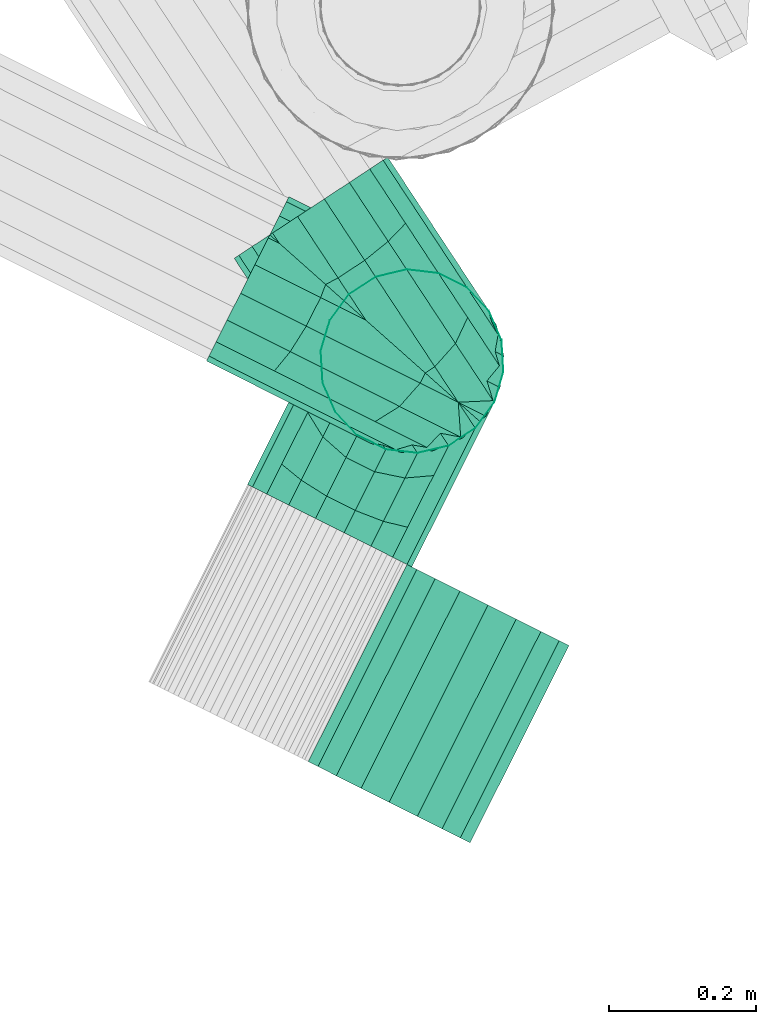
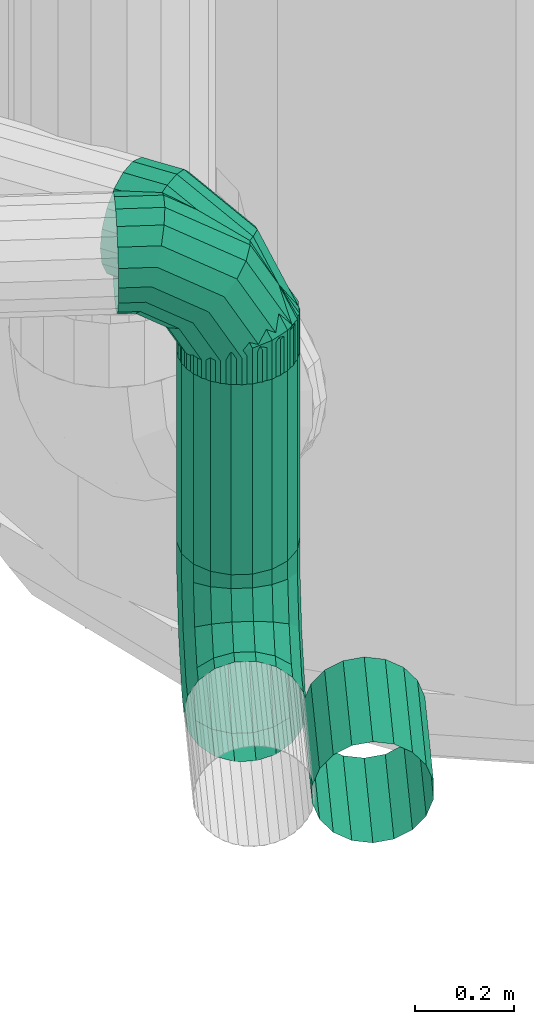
# One storey, part 94 of 206: 3 flow fittings, 2 flow segments.
"""IFC2X3 building model written with IfcOpenShell, lengths in metres."""

from ifc_helpers import new_model, si_unit, derived_unit, direction, frame, origin, place, context, subcontext, project, spatial, face_set, surface_model, source, transform, mapped, material, type_object, type_shapes, element, save


model = new_model("IFC2X3")

# Units and contexts
model_context = context("Model", 3, precision=5.2338327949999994e-05, world=origin(), true_north=direction((0.0, 1.0)))
body_context = subcontext(model_context, "Body", "Model", "MODEL_VIEW")
ifc_project = project(units=[si_unit("LENGTHUNIT", "METRE"), si_unit("AREAUNIT", "SQUARE_METRE"), si_unit("VOLUMEUNIT", "CUBIC_METRE"), si_unit("MASSUNIT", "GRAM", prefix="KILO"), si_unit("PLANEANGLEUNIT", "RADIAN"), derived_unit("THERMALTRANSMITTANCEUNIT", [(si_unit("MASSUNIT", "GRAM", prefix="KILO"), 1), (si_unit("THERMODYNAMICTEMPERATUREUNIT", "KELVIN"), -1), (si_unit("TIMEUNIT", "SECOND"), -3)])], contexts=[model_context])

# Site, building, storey
site_placement = place(None, frame((0.0, 0.0, 0.0), z_axis=(0.0, 0.0, 1.0), x_axis=(0.8939966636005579, -0.4480736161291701, 0.0)))
site = spatial("IfcSite", under=ifc_project, at=site_placement, Name="Default", CompositionType="ELEMENT")
building_placement = place(site_placement, origin())
building = spatial("IfcBuilding", under=site, at=building_placement, CompositionType="ELEMENT")
storey_placement = place(building_placement, origin())
storey = spatial("IfcBuildingStorey", under=building, at=storey_placement, Name="Erdgeschoss", CompositionType="ELEMENT", Elevation=0.0)

# Flow fitting
ifc_material = material(Name="IfcSurfaceStyle #251447")
distribution_element_type_1 = type_object("IfcDistributionElementType", Name="Segmentbogen 4 teilig 283546:Segmentbogen 4 teilig 283546", material=ifc_material)
shared_shape_1 = source(origin(), body_context, "Body", "SurfaceModel", [
    surface_model("IfcFaceBasedSurfaceModel", [(34.15757135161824, 8.91960368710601, 1.949999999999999), (34.11481883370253, 8.912065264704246, 1.949999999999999), (34.11481883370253, 8.912065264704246, 2.005531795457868), (34.15757135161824, 8.91960368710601, 2.01698729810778), (34.07722290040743, 8.890359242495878, 1.949999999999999), (34.07722290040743, 8.890359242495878, 1.9954579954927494), (34.049318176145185, 8.857103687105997, 1.949999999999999), (34.049318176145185, 8.857103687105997, 1.9879809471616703), (34.03447038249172, 8.816309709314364, 1.949999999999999), (34.03447038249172, 8.816309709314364, 1.9840024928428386), (34.034470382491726, 8.772897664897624, 1.949999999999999), (34.034470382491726, 8.772897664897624, 1.9840024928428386), (34.0493181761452, 8.732103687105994, 1.949999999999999), (34.0493181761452, 8.732103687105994, 1.9879809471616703), (34.077222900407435, 8.698848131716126, 1.949999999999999), (34.077222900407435, 8.698848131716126, 1.9954579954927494), (34.11481883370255, 8.677142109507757, 1.949999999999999), (34.11481883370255, 8.677142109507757, 2.005531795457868), (34.15757135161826, 8.66960368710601, 1.949999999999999), (34.157571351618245, 8.66960368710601, 2.01698729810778), (34.20032386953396, 8.677142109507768, 1.949999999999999), (34.20032386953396, 8.677142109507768, 2.0284428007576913), (34.237919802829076, 8.698848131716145, 1.949999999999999), (34.237919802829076, 8.698848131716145, 2.0385166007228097), (34.265824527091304, 8.73210368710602, 1.949999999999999), (34.265824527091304, 8.73210368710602, 2.045993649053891), (34.28067232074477, 8.772897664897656, 1.949999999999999), (34.28067232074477, 8.772897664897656, 2.0499721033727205), (34.28067232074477, 8.816309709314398, 1.949999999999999), (34.28067232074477, 8.816309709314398, 2.0499721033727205), (34.2658245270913, 8.85710368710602, 1.949999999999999), (34.2658245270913, 8.85710368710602, 2.045993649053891), (34.237919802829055, 8.890359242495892, 1.949999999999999), (34.237919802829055, 8.890359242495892, 2.0385166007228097), (34.200323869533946, 8.912065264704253, 1.949999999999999), (34.200323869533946, 8.912065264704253, 2.0284428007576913), (34.05928703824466, 8.91206526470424, 2.1017156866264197), (34.09058405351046, 8.919603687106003, 2.133012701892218), (34.031764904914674, 8.890359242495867, 2.074193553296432), (34.011337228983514, 8.857103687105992, 2.053765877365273), (34.00046788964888, 8.816309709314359, 2.0428965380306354), (34.00046788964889, 8.772897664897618, 2.042896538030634), (34.01133722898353, 8.732103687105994, 2.053765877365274), (34.03176490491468, 8.698848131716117, 2.0741935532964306), (34.05928703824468, 8.677142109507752, 2.1017156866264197), (34.090584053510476, 8.669603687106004, 2.133012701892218), (34.121881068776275, 8.677142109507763, 2.1643097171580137), (34.149403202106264, 8.698848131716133, 2.1918318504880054), (34.169830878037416, 8.732103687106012, 2.212259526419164), (34.18070021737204, 8.77289766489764, 2.2231288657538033), (34.18070021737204, 8.81630970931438, 2.2231288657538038), (34.16983087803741, 8.85710368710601, 2.212259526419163), (34.14940320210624, 8.89035924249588, 2.1918318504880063), (34.121881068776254, 8.912065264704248, 2.1643097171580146), (33.96310314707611, 8.912065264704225, 2.1572474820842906), (33.97455864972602, 8.919603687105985, 2.1999999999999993), (33.95302934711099, 8.890359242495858, 2.1196515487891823), (33.94555229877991, 8.85710368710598, 2.091746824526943), (33.94157384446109, 8.81630970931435, 2.0768990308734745), (33.94157384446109, 8.772897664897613, 2.0768990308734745), (33.94555229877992, 8.732103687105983, 2.091746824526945), (33.953029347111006, 8.698848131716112, 2.119651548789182), (33.963103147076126, 8.67714210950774, 2.1572474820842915), (33.974558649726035, 8.669603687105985, 2.1999999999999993), (33.98601415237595, 8.677142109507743, 2.242752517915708), (33.996087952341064, 8.698848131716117, 2.280348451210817), (34.00356500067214, 8.732103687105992, 2.3082531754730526), (34.00754345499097, 8.772897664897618, 2.3231009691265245), (34.00754345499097, 8.816309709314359, 2.3231009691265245), (34.00356500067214, 8.85710368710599, 2.308253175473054), (33.99608795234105, 8.890359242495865, 2.280348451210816), (33.98601415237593, 8.912065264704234, 2.2427525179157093), (33.907571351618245, 8.912065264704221, 2.1572474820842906), (33.90757135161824, 8.919603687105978, 2.1999999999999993), (33.907571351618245, 8.890359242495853, 2.1196515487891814), (33.907571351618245, 8.857103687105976, 2.0917468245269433), (33.90757135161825, 8.816309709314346, 2.076899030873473), (33.90757135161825, 8.772897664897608, 2.0768990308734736), (33.90757135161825, 8.732103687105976, 2.0917468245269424), (33.90757135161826, 8.698848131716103, 2.1196515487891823), (33.90757135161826, 8.67714210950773, 2.157247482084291), (33.90757135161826, 8.66960368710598, 2.1999999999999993), (33.90757135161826, 8.677142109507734, 2.2427525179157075), (33.90757135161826, 8.698848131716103, 2.2803484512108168), (33.90757135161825, 8.732103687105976, 2.3082531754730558), (33.90757135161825, 8.772897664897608, 2.3231009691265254), (33.90757135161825, 8.816309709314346, 2.3231009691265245), (33.907571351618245, 8.857103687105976, 2.3082531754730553), (33.907571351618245, 8.890359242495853, 2.2803484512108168), (33.907571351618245, 8.912065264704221, 2.2427525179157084)], [face_set([[[0, 1, 2, 3]], [[1, 4, 5, 2]], [[4, 6, 7, 5]], [[6, 8, 9, 7]], [[8, 10, 11, 9]], [[10, 12, 13, 11]], [[12, 14, 15, 13]], [[14, 16, 17, 15]], [[16, 18, 19, 17]], [[18, 20, 21, 19]], [[20, 22, 23, 21]], [[22, 24, 25, 23]], [[24, 26, 27, 25]], [[26, 28, 29, 27]], [[28, 30, 31, 29]], [[30, 32, 33, 31]], [[32, 34, 35, 33]], [[34, 0, 3, 35]], [[3, 2, 36, 37]], [[2, 5, 38, 36]], [[5, 7, 39, 38]], [[7, 9, 40, 39]], [[9, 11, 41, 40]], [[11, 13, 42, 41]], [[13, 15, 43, 42]], [[15, 17, 44, 43]], [[17, 19, 45, 44]], [[19, 21, 46, 45]], [[21, 23, 47, 46]], [[23, 25, 48, 47]], [[25, 27, 49, 48]], [[27, 29, 50, 49]], [[29, 31, 51, 50]], [[31, 33, 52, 51]], [[33, 35, 53, 52]], [[35, 3, 37, 53]], [[37, 36, 54, 55]], [[36, 38, 56, 54]], [[38, 39, 57, 56]], [[39, 40, 58, 57]], [[40, 41, 59, 58]], [[41, 42, 60, 59]], [[42, 43, 61, 60]], [[43, 44, 62, 61]], [[44, 45, 63, 62]], [[45, 46, 64, 63]], [[46, 47, 65, 64]], [[47, 48, 66, 65]], [[48, 49, 67, 66]], [[49, 50, 68, 67]], [[50, 51, 69, 68]], [[51, 52, 70, 69]], [[52, 53, 71, 70]], [[53, 37, 55, 71]], [[55, 54, 72, 73]], [[54, 56, 74, 72]], [[56, 57, 75, 74]], [[57, 58, 76, 75]], [[58, 59, 77, 76]], [[59, 60, 78, 77]], [[60, 61, 79, 78]], [[61, 62, 80, 79]], [[62, 63, 81, 80]], [[63, 64, 82, 81]], [[64, 65, 83, 82]], [[65, 66, 84, 83]], [[66, 67, 85, 84]], [[67, 68, 86, 85]], [[68, 69, 87, 86]], [[69, 70, 88, 87]], [[70, 71, 89, 88]], [[71, 55, 73, 89]]])]),
])
type_shapes(distribution_element_type_1, [shared_shape_1])
flow_fitting_1_placement = place(storey_placement, origin())
element("IfcFlowFitting", 1, at=flow_fitting_1_placement, inside=storey, type_object=distribution_element_type_1, material=ifc_material, Name="Segmentbogen 4 teilig", ObjectType="Segmentbogen 4 teilig", context=body_context, shape_type="MappedRepresentation", body=[
    mapped(shared_shape_1, transform((0.0, 0.0, 0.0), scale=1.0)),
])

# Flow segments
distribution_element_type_2 = type_object("IfcDistributionElementType", Name="Wickelfalzrohr 283569:Wickelfalzrohr 283569", material=ifc_material)
shared_shape_2 = source(origin(), body_context, "Body", "SurfaceModel", [
    surface_model("IfcFaceBasedSurfaceModel", [(34.28257135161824, 8.794603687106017, 1.4799999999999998), (34.27503292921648, 8.837356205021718, 1.4799999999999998), (34.27503292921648, 8.837356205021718, 1.9500000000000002), (34.28257135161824, 8.79460368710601, 1.9500000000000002), (34.25332690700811, 8.874952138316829, 1.4799999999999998), (34.25332690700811, 8.874952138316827, 1.9500000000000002), (34.220071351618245, 8.902856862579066, 1.4799999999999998), (34.22007135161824, 8.902856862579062, 1.9500000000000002), (34.17927737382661, 8.917704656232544, 1.4799999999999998), (34.1792773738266, 8.91770465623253, 1.9500000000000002), (34.135865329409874, 8.917704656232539, 1.4799999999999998), (34.13586532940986, 8.917704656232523, 1.9500000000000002), (34.09507135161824, 8.902856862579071, 1.4799999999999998), (34.09507135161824, 8.902856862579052, 1.9500000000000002), (34.06181579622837, 8.874952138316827, 1.4799999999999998), (34.061815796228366, 8.874952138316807, 1.9500000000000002), (34.040109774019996, 8.83735620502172, 1.4799999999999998), (34.040109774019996, 8.8373562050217, 1.9500000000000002), (34.03257135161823, 8.794603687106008, 1.4799999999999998), (34.03257135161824, 8.79460368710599, 1.9500000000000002), (34.040109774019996, 8.751851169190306, 1.4799999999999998), (34.04010977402, 8.751851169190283, 1.9500000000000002), (34.06181579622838, 8.714255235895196, 1.4799999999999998), (34.06181579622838, 8.714255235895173, 1.9500000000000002), (34.09507135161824, 8.686350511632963, 1.4799999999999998), (34.09507135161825, 8.686350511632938, 1.9500000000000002), (34.135865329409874, 8.671502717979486, 1.4799999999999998), (34.13586532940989, 8.67150271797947, 1.9500000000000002), (34.17927737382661, 8.671502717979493, 1.4799999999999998), (34.17927737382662, 8.671502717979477, 1.9500000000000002), (34.22007135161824, 8.686350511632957, 1.4799999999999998), (34.22007135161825, 8.686350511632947, 1.9500000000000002), (34.253326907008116, 8.714255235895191, 1.4799999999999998), (34.253326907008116, 8.714255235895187, 1.9500000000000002), (34.27503292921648, 8.751851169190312, 1.4799999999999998), (34.27503292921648, 8.751851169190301, 1.9500000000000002)], [face_set([[[0, 1, 2, 3]], [[1, 4, 5, 2]], [[4, 6, 7, 5]], [[6, 8, 9, 7]], [[8, 10, 11, 9]], [[10, 12, 13, 11]], [[12, 14, 15, 13]], [[14, 16, 17, 15]], [[16, 18, 19, 17]], [[18, 20, 21, 19]], [[20, 22, 23, 21]], [[22, 24, 25, 23]], [[24, 26, 27, 25]], [[26, 28, 29, 27]], [[28, 30, 31, 29]], [[30, 32, 33, 31]], [[32, 34, 35, 33]], [[34, 0, 3, 35]]])]),
])
type_shapes(distribution_element_type_2, [shared_shape_2])
flow_segment_1_placement = place(storey_placement, origin())
element("IfcFlowSegment", 2, at=flow_segment_1_placement, inside=storey, type_object=distribution_element_type_2, material=ifc_material, Name="Wickelfalzrohr", ObjectType="Wickelfalzrohr", context=body_context, shape_type="MappedRepresentation", body=[
    mapped(shared_shape_2, transform((0.0, 0.0, 0.0), scale=1.0)),
])
distribution_element_type_3 = type_object("IfcDistributionElementType", Name="Wickelfalzrohr 293699:Wickelfalzrohr 293699", material=ifc_material)
shared_shape_3 = source(origin(), body_context, "Body", "SurfaceModel", [
    surface_model("IfcFaceBasedSurfaceModel", [(34.398377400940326, 8.244603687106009, 1.3549999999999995), (34.44112991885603, 8.244603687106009, 1.3474615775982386), (34.44112991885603, 8.544603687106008, 1.3474615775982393), (34.398377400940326, 8.54460368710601, 1.355), (34.47872585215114, 8.244603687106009, 1.3257555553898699), (34.47872585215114, 8.54460368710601, 1.3257555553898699), (34.50663057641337, 8.244603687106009, 1.2925000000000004), (34.50663057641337, 8.54460368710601, 1.2925000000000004), (34.521478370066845, 8.244603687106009, 1.2517060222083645), (34.521478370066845, 8.54460368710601, 1.2517060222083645), (34.52147837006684, 8.244603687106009, 1.2082939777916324), (34.52147837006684, 8.54460368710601, 1.2082939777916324), (34.50663057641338, 8.244603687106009, 1.167499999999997), (34.50663057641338, 8.54460368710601, 1.167499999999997), (34.478725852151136, 8.244603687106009, 1.1342444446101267), (34.478725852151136, 8.54460368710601, 1.1342444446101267), (34.44112991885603, 8.244603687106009, 1.1125384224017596), (34.44112991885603, 8.54460368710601, 1.1125384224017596), (34.39837740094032, 8.244603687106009, 1.105000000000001), (34.398377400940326, 8.54460368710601, 1.1050000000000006), (34.35562488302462, 8.244603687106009, 1.112538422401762), (34.35562488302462, 8.54460368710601, 1.112538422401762), (34.3180289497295, 8.244603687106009, 1.1342444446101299), (34.3180289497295, 8.54460368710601, 1.1342444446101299), (34.29012422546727, 8.244603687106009, 1.1675000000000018), (34.29012422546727, 8.54460368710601, 1.1675000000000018), (34.27527643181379, 8.244603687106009, 1.208293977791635), (34.27527643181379, 8.54460368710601, 1.208293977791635), (34.2752764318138, 8.244603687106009, 1.2517060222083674), (34.2752764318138, 8.54460368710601, 1.2517060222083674), (34.29012422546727, 8.244603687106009, 1.2925000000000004), (34.29012422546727, 8.54460368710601, 1.2925000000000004), (34.3180289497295, 8.244603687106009, 1.3257555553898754), (34.3180289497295, 8.54460368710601, 1.3257555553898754), (34.355624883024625, 8.244603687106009, 1.347461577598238), (34.355624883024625, 8.54460368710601, 1.347461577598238)], [face_set([[[0, 1, 2, 3]], [[1, 4, 5, 2]], [[4, 6, 7, 5]], [[6, 8, 9, 7]], [[8, 10, 11, 9]], [[10, 12, 13, 11]], [[12, 14, 15, 13]], [[14, 16, 17, 15]], [[16, 18, 19, 17]], [[18, 20, 21, 19]], [[20, 22, 23, 21]], [[22, 24, 25, 23]], [[24, 26, 27, 25]], [[26, 28, 29, 27]], [[28, 30, 31, 29]], [[30, 32, 33, 31]], [[32, 34, 35, 33]], [[34, 0, 3, 35]]])]),
])
type_shapes(distribution_element_type_3, [shared_shape_3])
flow_segment_2_placement = place(storey_placement, origin())
element("IfcFlowSegment", 3, at=flow_segment_2_placement, inside=storey, type_object=distribution_element_type_3, material=ifc_material, Name="Wickelfalzrohr", ObjectType="Wickelfalzrohr", context=body_context, shape_type="MappedRepresentation", body=[
    mapped(shared_shape_3, transform((0.0, 0.0, 0.0), scale=1.0)),
])

# Flow fittings
distribution_element_type_4 = type_object("IfcDistributionElementType", material=ifc_material)
shared_shape_4 = source(origin(), body_context, "Body", "SurfaceModel", [
    surface_model("IfcFaceBasedSurfaceModel", [(34.03257135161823, 8.54460368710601, 1.23), (34.040109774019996, 8.54460368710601, 1.2727525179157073), (34.040109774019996, 8.600135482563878, 1.2727525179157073), (34.03257135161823, 8.611590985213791, 1.23), (34.061815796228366, 8.54460368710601, 1.3103484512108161), (34.061815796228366, 8.59006168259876, 1.3103484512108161), (34.09507135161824, 8.54460368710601, 1.3382531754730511), (34.09507135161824, 8.58258463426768, 1.3382531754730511), (34.13586532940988, 8.54460368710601, 1.3531009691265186), (34.13586532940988, 8.57860617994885, 1.3531009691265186), (34.179277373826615, 8.54460368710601, 1.3531009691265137), (34.179277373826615, 8.57860617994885, 1.3531009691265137), (34.22007135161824, 8.54460368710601, 1.3382531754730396), (34.22007135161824, 8.58258463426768, 1.3382531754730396), (34.253326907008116, 8.54460368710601, 1.3103484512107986), (34.253326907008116, 8.59006168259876, 1.3103484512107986), (34.27503292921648, 8.54460368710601, 1.272752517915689), (34.27503292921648, 8.600135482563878, 1.272752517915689), (34.28257135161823, 8.54460368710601, 1.2299999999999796), (34.28257135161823, 8.611590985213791, 1.2299999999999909), (34.27503292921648, 8.54460368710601, 1.1872474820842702), (34.27503292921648, 8.623046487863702, 1.1872474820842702), (34.253326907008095, 8.54460368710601, 1.1496515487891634), (34.253326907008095, 8.633120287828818, 1.1496515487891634), (34.22007135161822, 8.54460368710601, 1.1217468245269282), (34.22007135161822, 8.640597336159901, 1.1217468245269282), (34.17927737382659, 8.54460368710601, 1.1068990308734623), (34.17927737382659, 8.644575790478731, 1.1068990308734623), (34.13586532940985, 8.54460368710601, 1.1068990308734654), (34.13586532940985, 8.644575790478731, 1.1068990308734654), (34.09507135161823, 8.54460368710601, 1.12174682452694), (34.09507135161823, 8.640597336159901, 1.12174682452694), (34.06181579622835, 8.54460368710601, 1.1496515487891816), (34.06181579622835, 8.633120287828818, 1.1496515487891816), (34.04010977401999, 8.54460368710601, 1.1872474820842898), (34.04010977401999, 8.623046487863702, 1.1872474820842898), (34.04010977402, 8.69631937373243, 1.3282843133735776), (34.032571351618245, 8.727616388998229, 1.2969872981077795), (34.06181579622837, 8.66879724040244, 1.3558064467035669), (34.09507135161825, 8.648369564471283, 1.3762341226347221), (34.13586532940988, 8.637500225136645, 1.3871034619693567), (34.17927737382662, 8.637500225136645, 1.3871034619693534), (34.220071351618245, 8.648369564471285, 1.3762341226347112), (34.253326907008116, 8.66879724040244, 1.3558064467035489), (34.275032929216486, 8.696319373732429, 1.3282843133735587), (34.28257135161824, 8.727616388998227, 1.2969872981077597), (34.27503292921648, 8.758913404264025, 1.265690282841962), (34.25332690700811, 8.786435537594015, 1.2381681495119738), (34.22007135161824, 8.806863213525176, 1.217740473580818), (34.17927737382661, 8.817732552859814, 1.2068711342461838), (34.13586532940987, 8.817732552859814, 1.2068711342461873), (34.09507135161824, 8.806863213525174, 1.2177404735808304), (34.06181579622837, 8.786435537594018, 1.2381681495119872), (34.040109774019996, 8.758913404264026, 1.2656902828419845), (34.04010977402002, 8.751851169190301, 1.4244682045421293), (34.03257135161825, 8.794603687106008, 1.4130127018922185), (34.06181579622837, 8.714255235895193, 1.434542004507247), (34.09507135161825, 8.686350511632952, 1.4420190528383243), (34.13586532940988, 8.671502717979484, 1.4459975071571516), (34.17927737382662, 8.671502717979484, 1.4459975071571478), (34.22007135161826, 8.686350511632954, 1.442019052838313), (34.253326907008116, 8.714255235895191, 1.4345420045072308), (34.27503292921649, 8.751851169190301, 1.4244682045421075), (34.28257135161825, 8.794603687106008, 1.4130127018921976), (34.27503292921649, 8.837356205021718, 1.4015571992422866), (34.25332690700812, 8.874952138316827, 1.3914833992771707), (34.22007135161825, 8.902856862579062, 1.3840063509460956), (34.17927737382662, 8.917704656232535, 1.3800278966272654), (34.13586532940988, 8.917704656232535, 1.3800278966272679), (34.09507135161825, 8.902856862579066, 1.3840063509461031), (34.06181579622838, 8.874952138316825, 1.3914833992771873), (34.04010977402, 8.837356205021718, 1.4015571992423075), (34.04010977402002, 8.751851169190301, 1.4799999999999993), (34.03257135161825, 8.79460368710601, 1.4799999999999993), (34.06181579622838, 8.714255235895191, 1.4799999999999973), (34.095071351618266, 8.686350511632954, 1.4799999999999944), (34.13586532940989, 8.671502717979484, 1.4799999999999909), (34.17927737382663, 8.671502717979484, 1.4799999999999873), (34.22007135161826, 8.686350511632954, 1.4799999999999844), (34.25332690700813, 8.714255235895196, 1.47999999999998), (34.2750329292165, 8.751851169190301, 1.4799999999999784), (34.28257135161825, 8.79460368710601, 1.4799999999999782), (34.27503292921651, 8.837356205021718, 1.4799999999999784), (34.25332690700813, 8.874952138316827, 1.47999999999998), (34.22007135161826, 8.902856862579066, 1.479999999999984), (34.17927737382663, 8.917704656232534, 1.4799999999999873), (34.13586532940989, 8.917704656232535, 1.479999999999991), (34.09507135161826, 8.902856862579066, 1.4799999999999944), (34.06181579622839, 8.874952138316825, 1.4799999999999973), (34.04010977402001, 8.83735620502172, 1.4799999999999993)], [face_set([[[0, 1, 2, 3]], [[1, 4, 5, 2]], [[4, 6, 7, 5]], [[6, 8, 9, 7]], [[8, 10, 11, 9]], [[10, 12, 13, 11]], [[12, 14, 15, 13]], [[14, 16, 17, 15]], [[16, 18, 19, 17]], [[18, 20, 21, 19]], [[20, 22, 23, 21]], [[22, 24, 25, 23]], [[24, 26, 27, 25]], [[26, 28, 29, 27]], [[28, 30, 31, 29]], [[30, 32, 33, 31]], [[32, 34, 35, 33]], [[34, 0, 3, 35]], [[3, 2, 36, 37]], [[2, 5, 38, 36]], [[5, 7, 39, 38]], [[7, 9, 40, 39]], [[9, 11, 41, 40]], [[11, 13, 42, 41]], [[13, 15, 43, 42]], [[15, 17, 44, 43]], [[17, 19, 45, 44]], [[19, 21, 46, 45]], [[21, 23, 47, 46]], [[23, 25, 48, 47]], [[25, 27, 49, 48]], [[27, 29, 50, 49]], [[29, 31, 51, 50]], [[31, 33, 52, 51]], [[33, 35, 53, 52]], [[35, 3, 37, 53]], [[37, 36, 54, 55]], [[36, 38, 56, 54]], [[38, 39, 57, 56]], [[39, 40, 58, 57]], [[40, 41, 59, 58]], [[41, 42, 60, 59]], [[42, 43, 61, 60]], [[43, 44, 62, 61]], [[44, 45, 63, 62]], [[45, 46, 64, 63]], [[46, 47, 65, 64]], [[47, 48, 66, 65]], [[48, 49, 67, 66]], [[49, 50, 68, 67]], [[50, 51, 69, 68]], [[51, 52, 70, 69]], [[52, 53, 71, 70]], [[53, 37, 55, 71]], [[55, 54, 72, 73]], [[54, 56, 74, 72]], [[56, 57, 75, 74]], [[57, 58, 76, 75]], [[58, 59, 77, 76]], [[59, 60, 78, 77]], [[60, 61, 79, 78]], [[61, 62, 80, 79]], [[62, 63, 81, 80]], [[63, 64, 82, 81]], [[64, 65, 83, 82]], [[65, 66, 84, 83]], [[66, 67, 85, 84]], [[67, 68, 86, 85]], [[68, 69, 87, 86]], [[69, 70, 88, 87]], [[70, 71, 89, 88]], [[71, 55, 73, 89]]])]),
])
type_shapes(distribution_element_type_4, [shared_shape_4])
flow_fitting_2_placement = place(storey_placement, origin())
element("IfcFlowFitting", 4, at=flow_fitting_2_placement, inside=storey, type_object=distribution_element_type_4, material=ifc_material, Name="Segmentbogen 4 teilig", ObjectType="Segmentbogen 4 teilig", context=body_context, shape_type="MappedRepresentation", body=[
    mapped(shared_shape_4, transform((0.0, 0.0, 0.0), scale=1.0)),
])
distribution_element_type_5 = type_object("IfcDistributionElementType", Name="Segmentbogen 4 teilig 293742:Segmentbogen 4 teilig 293742", material=ifc_material)
shared_shape_5 = source(origin(), body_context, "Body", "SurfaceModel", [
    surface_model("IfcFaceBasedSurfaceModel", [(33.878565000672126, 8.811350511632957, 2.2000000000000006), (33.882334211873, 8.817878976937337, 2.1572474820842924), (33.93042615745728, 8.790113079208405, 2.157247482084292), (33.93657770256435, 8.77785686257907, 2.200000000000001), (33.89318722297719, 8.836676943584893, 2.1196515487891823), (33.93255500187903, 8.813947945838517, 2.119651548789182), (33.909815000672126, 8.865477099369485, 2.091746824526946), (33.94270746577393, 8.846486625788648, 2.0917468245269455), (33.93021198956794, 8.900805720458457, 2.076899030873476), (33.959659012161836, 8.883804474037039, 2.076899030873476), (33.9519180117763, 8.938401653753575, 2.0768990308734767), (33.98136503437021, 8.921400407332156, 2.0768990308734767), (33.97231500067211, 8.973730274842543, 2.0917468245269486), (34.00520746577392, 8.954739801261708, 2.091746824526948), (33.988942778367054, 9.002530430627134, 2.119651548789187), (34.02831055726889, 8.979801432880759, 2.1196515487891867), (33.99979578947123, 9.021328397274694, 2.1572474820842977), (34.047887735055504, 8.993562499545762, 2.157247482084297), (34.003565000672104, 9.027856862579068, 2.2000000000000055), (34.06157770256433, 8.99436321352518, 2.199999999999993), (33.999795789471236, 9.021328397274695, 2.242752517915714), (34.0677292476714, 8.982106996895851, 2.2427525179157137), (33.98894277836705, 9.002530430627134, 2.2803484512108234), (34.06560040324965, 8.95827213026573, 2.280348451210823), (33.97231500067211, 8.973730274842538, 2.3082531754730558), (34.055447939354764, 8.925733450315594, 2.3082531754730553), (33.9519180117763, 8.938401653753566, 2.323100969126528), (34.03849639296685, 8.888415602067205, 2.3231009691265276), (33.93021198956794, 8.900805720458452, 2.323100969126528), (34.016790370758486, 8.850819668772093, 2.323100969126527), (33.90981500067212, 8.865477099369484, 2.308253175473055), (33.992947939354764, 8.81748027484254, 2.308253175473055), (33.89318722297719, 8.836676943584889, 2.2803484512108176), (33.96984484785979, 8.792418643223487, 2.280348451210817), (33.88233421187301, 8.817878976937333, 2.2427525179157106), (33.950267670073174, 8.77865757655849, 2.24275251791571), (34.01372385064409, 8.74202113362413, 2.101715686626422), (34.03705864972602, 8.71984416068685, 2.1330127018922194), (34.00074199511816, 8.77458016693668, 2.074193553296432), (33.999678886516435, 8.813594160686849, 2.0537658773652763), (34.010662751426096, 8.854357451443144, 2.0428965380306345), (34.03236877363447, 8.89195338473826, 2.042896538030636), (34.062178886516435, 8.921847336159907, 2.053765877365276), (34.09649755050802, 8.940433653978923, 2.0741935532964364), (34.13118542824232, 8.945470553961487, 2.101715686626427), (34.162058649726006, 8.936350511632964, 2.133012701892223), (34.185393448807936, 8.914173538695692, 2.164309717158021), (34.19837530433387, 8.881614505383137, 2.1918318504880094), (34.1994384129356, 8.842600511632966, 2.2122595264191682), (34.18845454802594, 8.801837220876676, 2.2231288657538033), (34.16674852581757, 8.764241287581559, 2.223128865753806), (34.1369384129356, 8.734347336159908, 2.212259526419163), (34.10261974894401, 8.715761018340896, 2.1918318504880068), (34.06793187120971, 8.71072411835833, 2.1643097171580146), (34.06181579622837, 8.714255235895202, 2.005531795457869), (34.09507135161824, 8.68635051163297, 2.0169872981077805), (34.04010977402, 8.751851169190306, 1.99545799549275), (34.03257135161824, 8.79460368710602, 1.9879809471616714), (34.040109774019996, 8.837356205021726, 1.9840024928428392), (34.061815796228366, 8.874952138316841, 1.984002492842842), (34.09507135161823, 8.902856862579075, 1.9879809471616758), (34.13586532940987, 8.91770465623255, 1.9954579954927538), (34.1792773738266, 8.917704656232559, 2.0055317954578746), (34.22007135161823, 8.90285686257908, 2.0169872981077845), (34.25332690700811, 8.87495213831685, 2.0284428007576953), (34.275032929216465, 8.837356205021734, 2.0385166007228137), (34.28257135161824, 8.794603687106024, 2.045993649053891), (34.27503292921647, 8.751851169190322, 2.049972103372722), (34.25332690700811, 8.714255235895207, 2.0499721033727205), (34.22007135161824, 8.686350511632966, 2.0459936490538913), (34.1792773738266, 8.671502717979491, 2.0385166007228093), (34.13586532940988, 8.671502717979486, 2.028442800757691), (34.06181579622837, 8.714255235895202, 1.9499999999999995), (34.09507135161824, 8.686350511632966, 1.9499999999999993), (34.04010977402, 8.75185116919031, 1.9499999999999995), (34.03257135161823, 8.79460368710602, 1.9500000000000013), (34.040109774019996, 8.837356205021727, 1.9500000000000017), (34.061815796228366, 8.874952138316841, 1.9500000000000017), (34.09507135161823, 8.902856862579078, 1.9500000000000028), (34.13586532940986, 8.917704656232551, 1.9500000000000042), (34.1792773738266, 8.917704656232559, 1.9500000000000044), (34.22007135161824, 8.90285686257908, 1.950000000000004), (34.25332690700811, 8.87495213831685, 1.9500000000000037), (34.27503292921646, 8.837356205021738, 1.9500000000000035), (34.28257135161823, 8.794603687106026, 1.950000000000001), (34.27503292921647, 8.75185116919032, 1.9500000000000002), (34.25332690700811, 8.714255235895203, 1.9500000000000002), (34.220071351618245, 8.686350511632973, 1.9499999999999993), (34.17927737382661, 8.671502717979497, 1.9499999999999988), (34.13586532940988, 8.671502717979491, 1.9499999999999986)], [face_set([[[0, 1, 2, 3]], [[1, 4, 5, 2]], [[4, 6, 7, 5]], [[6, 8, 9, 7]], [[8, 10, 11, 9]], [[10, 12, 13, 11]], [[12, 14, 15, 13]], [[14, 16, 17, 15]], [[16, 18, 19, 17]], [[18, 20, 21, 19]], [[20, 22, 23, 21]], [[22, 24, 25, 23]], [[24, 26, 27, 25]], [[26, 28, 29, 27]], [[28, 30, 31, 29]], [[30, 32, 33, 31]], [[32, 34, 35, 33]], [[34, 0, 3, 35]], [[3, 2, 36, 37]], [[2, 5, 38, 36]], [[5, 7, 39, 38]], [[7, 9, 40, 39]], [[9, 11, 41, 40]], [[11, 13, 42, 41]], [[13, 15, 43, 42]], [[15, 17, 44, 43]], [[17, 19, 45, 44]], [[19, 21, 46, 45]], [[21, 23, 47, 46]], [[23, 25, 48, 47]], [[25, 27, 49, 48]], [[27, 29, 50, 49]], [[29, 31, 51, 50]], [[31, 33, 52, 51]], [[33, 35, 53, 52]], [[35, 3, 37, 53]], [[37, 36, 54, 55]], [[36, 38, 56, 54]], [[38, 39, 57, 56]], [[39, 40, 58, 57]], [[40, 41, 59, 58]], [[41, 42, 60, 59]], [[42, 43, 61, 60]], [[43, 44, 62, 61]], [[44, 45, 63, 62]], [[45, 46, 64, 63]], [[46, 47, 65, 64]], [[47, 48, 66, 65]], [[48, 49, 67, 66]], [[49, 50, 68, 67]], [[50, 51, 69, 68]], [[51, 52, 70, 69]], [[52, 53, 71, 70]], [[53, 37, 55, 71]], [[55, 54, 72, 73]], [[54, 56, 74, 72]], [[56, 57, 75, 74]], [[57, 58, 76, 75]], [[58, 59, 77, 76]], [[59, 60, 78, 77]], [[60, 61, 79, 78]], [[61, 62, 80, 79]], [[62, 63, 81, 80]], [[63, 64, 82, 81]], [[64, 65, 83, 82]], [[65, 66, 84, 83]], [[66, 67, 85, 84]], [[67, 68, 86, 85]], [[68, 69, 87, 86]], [[69, 70, 88, 87]], [[70, 71, 89, 88]], [[71, 55, 73, 89]]])]),
])
type_shapes(distribution_element_type_5, [shared_shape_5])
flow_fitting_3_placement = place(storey_placement, origin())
element("IfcFlowFitting", 5, at=flow_fitting_3_placement, inside=storey, type_object=distribution_element_type_5, material=ifc_material, Name="Segmentbogen 4 teilig", ObjectType="Segmentbogen 4 teilig", context=body_context, shape_type="MappedRepresentation", body=[
    mapped(shared_shape_5, transform((0.0, 0.0, 0.0), scale=1.0)),
])

save(model, "model.ifc")
